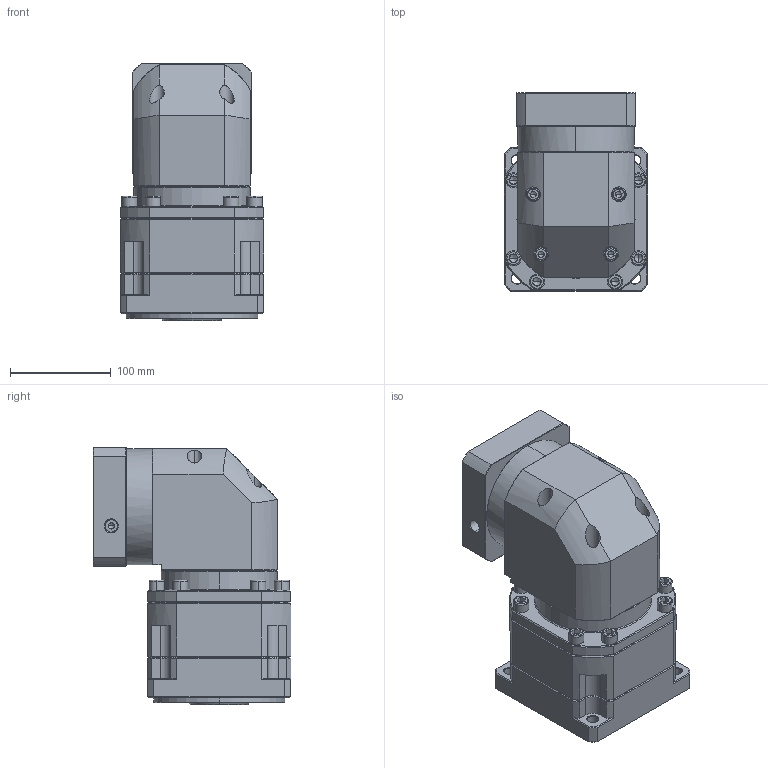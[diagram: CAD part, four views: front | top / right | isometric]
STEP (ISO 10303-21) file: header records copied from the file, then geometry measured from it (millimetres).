
FILE_DESCRIPTION (( 'STEP AP214' ), '1' );
FILE_NAME ('ZBR142A-K35-L2-P2-19-95-115-M6.step', '2023-09-02T08:12:18', ( '' ), ( '' ), 'SwSTEP 2.0', 'SolidWorks 2016', '' );
FILE_SCHEMA (( 'AUTOMOTIVE_DESIGN' ));
Length unit declared in the file: millimetre
Products named in the file (1): ZBR142A-K35-L2-P2-19-95-115-M6
Bounding box: 142 x 195.9 x 255.2 mm (x, y, z)
Volume: 4139161.6 mm3; surface area: 302994.5 mm2
Topology: 6 solids, 6 shells, 2518 faces, 6552 edges, 4158 vertices
Faces by surface type: plane 1224, cylinder 450, bspline 407, cone 393, torus 44
Entity records: 130824 total; most frequent: CARTESIAN_POINT 44584, ORIENTED_EDGE 13000, DIRECTION 10692, EDGE_CURVE 6500, LINE 4196, VECTOR 4196, VERTEX_POINT 4158, AXIS2_PLACEMENT_3D 3248
